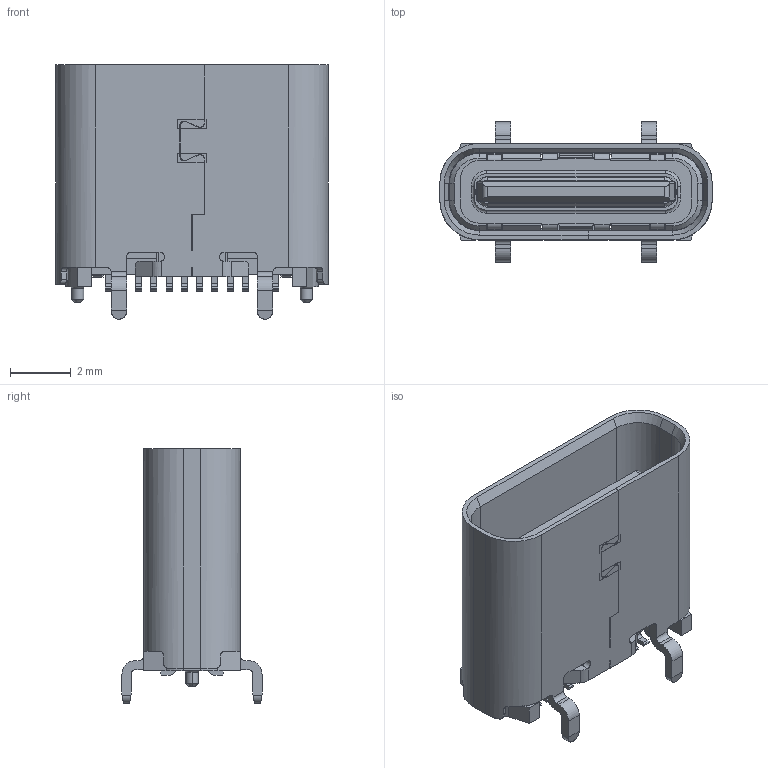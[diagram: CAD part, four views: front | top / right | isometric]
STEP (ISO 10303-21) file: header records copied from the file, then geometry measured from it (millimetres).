
FILE_DESCRIPTION((''),'2;1');
FILE_NAME('1040003','2023-05-05T13:50:17',('Administrator'),(''),'CREO PARAMETRIC BY PTC INC, 2019080','CREO PARAMETRIC BY PTC INC, 2019080','');
FILE_SCHEMA(('CONFIG_CONTROL_DESIGN'));
Length unit declared in the file: millimetre
Products named in the file (1): 1040003
Bounding box: 8.94 x 4.6 x 8.35 mm (x, y, z)
Volume: 89.9 mm3; surface area: 520.7 mm2
Topology: 1 solids, 1 shells, 1030 faces, 2980 edges, 1935 vertices
Faces by surface type: plane 732, cylinder 238, cone 32, torus 18, bspline 10
Entity records: 34472 total; most frequent: CARTESIAN_POINT 7088, ORIENTED_EDGE 5958, DIRECTION 5422, EDGE_CURVE 2979, VECTOR 2328, LINE 2328, VERTEX_POINT 1935, AXIS2_PLACEMENT_3D 1547
